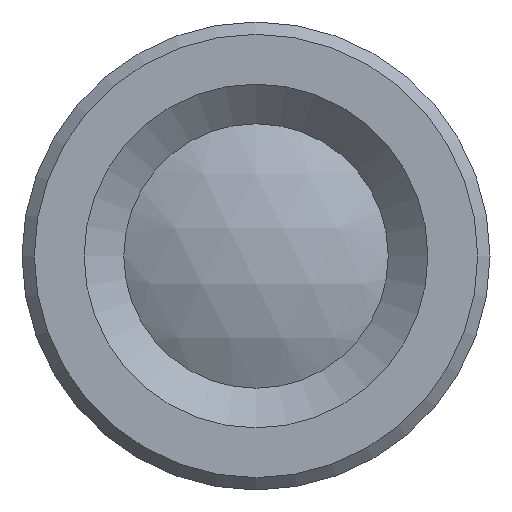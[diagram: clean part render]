
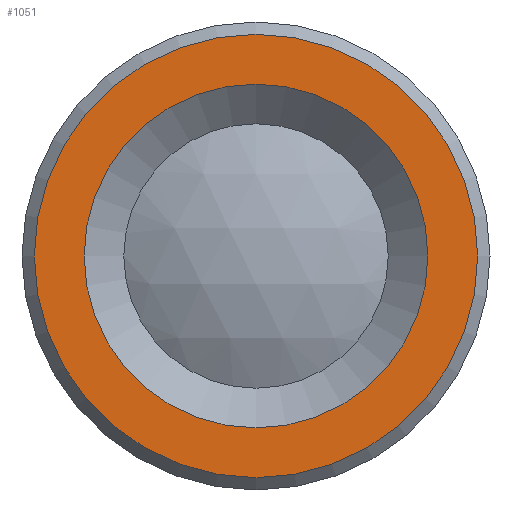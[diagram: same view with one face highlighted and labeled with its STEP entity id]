
A CAD part, left-side view. The second image highlights one B-rep face of the part: STEP entity #1051.
In plain terms, the highlighted planar face has unit normal (-1, 0, 0).
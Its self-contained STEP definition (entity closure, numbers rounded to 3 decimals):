
#65=PLANE('',#1169);
#83=FACE_BOUND('',#208,.T.);
#129=FACE_OUTER_BOUND('',#207,.T.);
#207=EDGE_LOOP('',(#748));
#208=EDGE_LOOP('',(#749));
#392=CIRCLE('',#1149,6.979);
#394=CIRCLE('',#1152,9.);
#451=VERTEX_POINT('',#1609);
#454=VERTEX_POINT('',#1616);
#553=EDGE_CURVE('',#451,#451,#392,.T.);
#556=EDGE_CURVE('',#454,#454,#394,.T.);
#748=ORIENTED_EDGE('',*,*,#556,.T.);
#749=ORIENTED_EDGE('',*,*,#553,.F.);
#1051=ADVANCED_FACE('',(#129,#83),#65,.F.);
#1149=AXIS2_PLACEMENT_3D('',#1611,#1298,#1299);
#1152=AXIS2_PLACEMENT_3D('',#1618,#1305,#1306);
#1169=AXIS2_PLACEMENT_3D('',#1648,#1344,#1345);
#1298=DIRECTION('center_axis',(-1.,0.,0.));
#1299=DIRECTION('ref_axis',(0.,-1.,0.));
#1305=DIRECTION('center_axis',(-1.,0.,0.));
#1306=DIRECTION('ref_axis',(0.,-1.,0.));
#1344=DIRECTION('center_axis',(1.,0.,0.));
#1345=DIRECTION('ref_axis',(0.,1.,0.));
#1609=CARTESIAN_POINT('',(-0.144,6.979,0.));
#1611=CARTESIAN_POINT('Origin',(-0.144,0.,
0.));
#1616=CARTESIAN_POINT('',(-0.144,-9.,0.));
#1618=CARTESIAN_POINT('Origin',(-0.144,0.,
0.));
#1648=CARTESIAN_POINT('Origin',(-0.144,0.,
0.));
